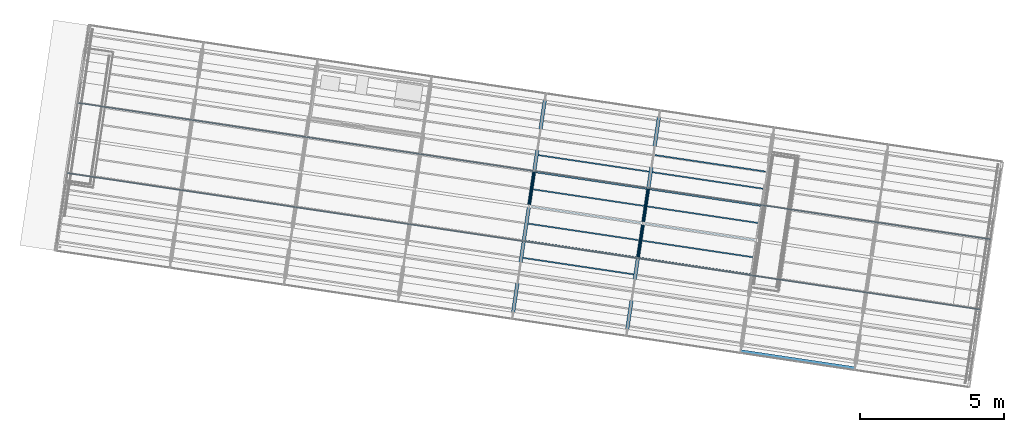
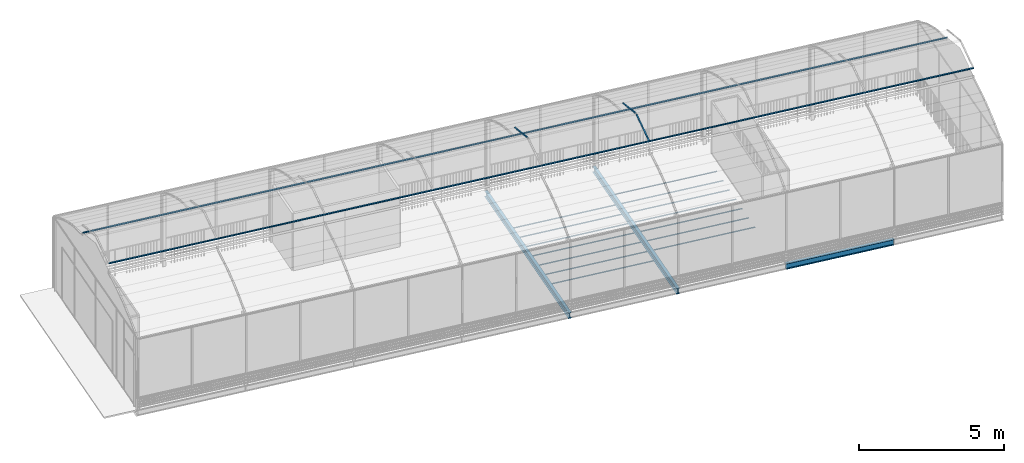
# One storey, part 11 of 34: 17 beams, 5 members, 1 element without a shape of its own.
"""IFC4 building model written with IfcOpenShell, lengths in metres."""

import ifcopenshell
import ifcopenshell.guid

model = None  # the IFC model being written
_history = None  # IfcOwnerHistory: only IFC2X3 demands one
_inside = {}  # id of a spatial element -> (the spatial element, [elements in it])
_under = {}  # id of a project, library or spatial element -> (it, [spatial elements below it])
_declared = {}  # id of a project -> (the project, [libraries it declares])
_typed = {}  # id of a type object -> (the type object, [elements of that type])
_made_of = {}  # id of a material, layer set ... -> (it, [elements and type objects made of it])


def new_model(schema):
    """Start an empty IFC model of exactly this schema.

    Asked for "IFC4X3", IfcOpenShell would pick the latest addendum, in which some entities
    have other attributes; the version numbers below select the first issue.
    IFC2X3 requires an IfcOwnerHistory on every rooted entity: one is made here for all.
    """
    global model, _history
    if schema == "IFC4X3":
        model = ifcopenshell.file(schema_version=(4, 3, 0, 0))
    else:
        model = ifcopenshell.file(schema=schema)
    _inside.clear()
    _under.clear()
    _declared.clear()
    _typed.clear()
    _made_of.clear()
    _history = None
    if model.schema == "IFC2X3":
        org = make("IfcOrganization", Name="unknown")
        user = make(
            "IfcPersonAndOrganization",
            ThePerson=make("IfcPerson", FamilyName="unknown"),
            TheOrganization=org,
        )
        app = make(
            "IfcApplication",
            ApplicationDeveloper=org,
            Version="unknown",
            ApplicationFullName="unknown",
            ApplicationIdentifier="unknown",
        )
        _history = make(
            "IfcOwnerHistory",
            OwningUser=user,
            OwningApplication=app,
            ChangeAction="ADDED",
            CreationDate=0,
        )
    return model


def make(cls, **values):
    """One entity of the class cls with the attributes given. An attribute that is None is left unset."""
    return model.create_entity(
        cls, **{name: value for name, value in values.items() if value is not None}
    )


def rooted(cls, **values):
    """An entity with a GlobalId (a new one), such as an element, a storey or a relation."""
    return make(cls, GlobalId=ifcopenshell.guid.new(), OwnerHistory=_history, **values)


def si_unit(unit_type, name, prefix=None):
    """IfcSIUnit, for example si_unit("LENGTHUNIT", "METRE", prefix="MILLI")."""
    return make("IfcSIUnit", UnitType=unit_type, Prefix=prefix, Name=name)


def assignment(units):
    """IfcUnitAssignment: the units of a project."""
    return None if units is None else make("IfcUnitAssignment", Units=units)


def point(xyz):
    """IfcCartesianPoint."""
    return None if xyz is None else make("IfcCartesianPoint", Coordinates=xyz)


def direction(xyz):
    """IfcDirection."""
    return None if xyz is None else make("IfcDirection", DirectionRatios=xyz)


def frame(location, z_axis=None, x_axis=None):
    """IfcAxis2Placement3D, a coordinate frame: its origin and axes. An axis left out is left unset."""
    return make(
        "IfcAxis2Placement3D",
        Location=point(location),
        Axis=direction(z_axis),
        RefDirection=direction(x_axis),
    )


def origin_with_axes():
    """The frame at (0, 0, 0) with the z axis (0, 0, 1) and the x axis (1, 0, 0) written out."""
    return frame((0.0, 0.0, 0.0), z_axis=(0.0, 0.0, 1.0), x_axis=(1.0, 0.0, 0.0))


def place(relative_to, where):
    """IfcLocalPlacement: puts the frame where relative to a parent placement (None: the world)."""
    return make(
        "IfcLocalPlacement", PlacementRelTo=relative_to, RelativePlacement=where
    )


def context(
    kind, dimensions, precision=None, world=None, true_north=None, identifier=None
):
    """IfcGeometricRepresentationContext, for example the 3D "Model" context."""
    return make(
        "IfcGeometricRepresentationContext",
        ContextIdentifier=identifier,
        ContextType=kind,
        CoordinateSpaceDimension=dimensions,
        Precision=precision,
        WorldCoordinateSystem=world,
        TrueNorth=true_north,
    )


def subcontext(parent, identifier, kind, view, scale=None):
    """IfcGeometricRepresentationSubContext, for example "Body" below "Model"."""
    return make(
        "IfcGeometricRepresentationSubContext",
        ContextIdentifier=identifier,
        ContextType=kind,
        ParentContext=parent,
        TargetScale=scale,
        TargetView=view,
    )


def project(units=None, contexts=None):
    """IfcProject with its units and contexts."""
    return rooted(
        "IfcProject",
        Name="project",
        RepresentationContexts=contexts,
        UnitsInContext=assignment(units),
    )


def spatial(cls, under=None, at=None, **own):
    """A site, building, storey or space (cls), placed at a placement, below another one or the project."""
    s = rooted(cls, ObjectPlacement=at, **own)
    if under is not None:
        _under.setdefault(under.id(), (under, []))[1].append(s)
    return s


def polyline(points):
    """IfcPolyline through the points."""
    return make("IfcPolyline", Points=[point(p) for p in points])


def profile(cls, at=None, kind="AREA", **sizes):
    """A parametric profile (cls). Its sizes go by their IFC names, for example OverallWidth=200.0."""
    return make(cls, ProfileType=kind, Position=at, **sizes)


def rectangle(**sizes):
    """IfcRectangleProfileDef."""
    return profile("IfcRectangleProfileDef", **sizes)


def i_section(**sizes):
    """IfcIShapeProfileDef."""
    return profile("IfcIShapeProfileDef", **sizes)


def outline(outer, holes=None, kind="AREA"):
    """IfcArbitraryClosedProfileDef: a profile drawn as a closed curve; with holes, ...WithVoids."""
    if holes is None:
        return make("IfcArbitraryClosedProfileDef", ProfileType=kind, OuterCurve=outer)
    return make(
        "IfcArbitraryProfileDefWithVoids",
        ProfileType=kind,
        OuterCurve=outer,
        InnerCurves=holes,
    )


def extrude(swept, where, along, depth):
    """IfcExtrudedAreaSolid: the profile swept, set in the frame where, extruded along a direction by depth."""
    return make(
        "IfcExtrudedAreaSolid",
        SweptArea=swept,
        Position=where,
        ExtrudedDirection=direction(along),
        Depth=depth,
    )


def shape(context_of_items, identifier, shape_type, items):
    """IfcShapeRepresentation: the items that make up one representation, for example the "Body"."""
    return make(
        "IfcShapeRepresentation",
        ContextOfItems=context_of_items,
        RepresentationIdentifier=identifier,
        RepresentationType=shape_type,
        Items=items,
    )


def material(Name=None, Category=None):
    """IfcMaterial."""
    return make("IfcMaterial", Name=Name, Category=Category)


def material_profile(
    of_material, cross_section, Name=None, Category=None, Priority=None
):
    """IfcMaterialProfile: a cross section and its material."""
    return make(
        "IfcMaterialProfile",
        Name=Name,
        Material=of_material,
        Profile=cross_section,
        Priority=Priority,
        Category=Category,
    )


def profile_set(profiles, Name=None, composite=None):
    """IfcMaterialProfileSet."""
    return make(
        "IfcMaterialProfileSet",
        Name=Name,
        MaterialProfiles=profiles,
        CompositeProfile=composite,
    )


def profile_usage(for_profile_set, cardinal=None, extent=None):
    """IfcMaterialProfileSetUsage: how a profile set lies along its element."""
    return make(
        "IfcMaterialProfileSetUsage",
        ForProfileSet=for_profile_set,
        CardinalPoint=cardinal,
        ReferenceExtent=extent,
    )


def made_of(thing, what):
    """Note that an element or type object is made of a material, layer set ...; save() writes the relation."""
    if what is not None:
        _made_of.setdefault(what.id(), (what, []))[1].append(thing)
    return thing


def type_object(cls, material=None, **own):
    """A type object (cls), such as IfcWallType, which elements share."""
    return made_of(rooted(cls, **own), material)


def element(
    cls,
    number,
    at=None,
    inside=None,
    cuts=None,
    type_object=None,
    material=None,
    context=None,
    identifier="Body",
    shape_type=None,
    held_by="IfcProductDefinitionShape",
    body=None,
    shapes=None,
    **own,
):
    """One element of the class cls, such as IfcWall. Its Tag is "e" and its number.

    at: its placement. inside: the storey or other place that contains it. cuts: it is an
    opening in that element (IfcRelVoidsElement). A single representation is given by context,
    identifier, shape_type and body (its items); several are given by shapes. held_by: the class
    of the entity that holds the representations. save() writes the other relations.
    """
    e = rooted(cls, Tag="e%d" % number, ObjectPlacement=at, **own)
    if body is not None:
        shapes = [shape(context, identifier, shape_type, body)]
    if shapes is not None:
        e.Representation = make(held_by, Representations=shapes)
    if inside is not None:
        _inside.setdefault(inside.id(), (inside, []))[1].append(e)
    if cuts is not None:
        rooted(
            "IfcRelVoidsElement", RelatingBuildingElement=cuts, RelatedOpeningElement=e
        )
    if type_object is not None:
        _typed.setdefault(type_object.id(), (type_object, []))[1].append(e)
    return made_of(e, material)


def aggregate(whole, parts):
    """IfcRelAggregates: a whole, such as a stair, and the parts it consists of."""
    return rooted("IfcRelAggregates", RelatingObject=whole, RelatedObjects=parts)


def save(model, path):
    """Write the relations noted so far, then the file.

    IfcRelAggregates (storeys below a building ...), IfcRelContainedInSpatialStructure (elements
    in a storey), IfcRelDefinesByType, IfcRelAssociatesMaterial and IfcRelDeclares: one each for
    every whole, place, type object, material and project.
    """
    for whole, parts in _under.values():
        aggregate(whole, parts)
    for where, things in _inside.values():
        rooted(
            "IfcRelContainedInSpatialStructure",
            RelatedElements=things,
            RelatingStructure=where,
        )
    for kind, things in _typed.values():
        rooted("IfcRelDefinesByType", RelatedObjects=things, RelatingType=kind)
    for what, things in _made_of.values():
        rooted("IfcRelAssociatesMaterial", RelatedObjects=things, RelatingMaterial=what)
    for by, libraries in _declared.values():
        rooted("IfcRelDeclares", RelatingContext=by, RelatedDefinitions=libraries)
    model.write(path)


model = new_model("IFC4")

# Units and contexts
model_context = context("Model", 3, precision=1e-05, world=origin_with_axes(), true_north=direction((0.0, 1.0)))
body_context = subcontext(model_context, "Body", "Model", "MODEL_VIEW")
ifc_project = project(units=[si_unit("LENGTHUNIT", "METRE"), si_unit("AREAUNIT", "SQUARE_METRE"), si_unit("VOLUMEUNIT", "CUBIC_METRE")], contexts=[model_context])

# Site, building, storey
site_placement = place(None, origin_with_axes())
site = spatial("IfcSite", under=ifc_project, at=site_placement, Name="Lares · Rua das Mercês · artigo 4771")
building_placement = place(site_placement, frame((15.0, 9.7, 14.65), z_axis=(0.0, 0.0, 1.0), x_axis=(0.989015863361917, -0.147809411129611, 0.0)))
building = spatial("IfcBuilding", under=site, at=building_placement, Name="Casa Sobreposta")
storey_placement = place(building_placement, frame((0.0, 0.0, 3.24), z_axis=(0.0, 0.0, 1.0), x_axis=(1.0, 0.0, 0.0)))
storey = spatial("IfcBuildingStorey", under=building, at=storey_placement, Name="01 · Jardim de inverno", Elevation=17.89)

# Beams
ifc_material_1 = material(Name="Aço pintado / Stahl lackiert", Category="steel")
ifc_material_profile_1 = material_profile(ifc_material_1, i_section(OverallWidth=0.12, OverallDepth=0.24, WebThickness=0.0062, FlangeThickness=0.0098))
ifc_profile_set_1 = profile_set([ifc_material_profile_1], Name="IPE240")
ifc_profile_usage_1 = profile_usage(ifc_profile_set_1)
beam_type = type_object("IfcBeamType", Name="IPE240 / steel", PredefinedType="NOTDEFINED", material=ifc_profile_set_1)
beam_1_placement = place(storey_placement, frame((24.0, -1.44, -0.152), z_axis=(1.0, 0.0, 0.0), x_axis=(0.0, -1.0, 0.0)))
element("IfcBeam", 1, at=beam_1_placement, inside=storey, type_object=beam_type, material=ifc_profile_usage_1, Name="Viga longitudinal 24 / -1.44", context=body_context, shape_type="SweptSolid", body=[
    extrude(i_section(OverallWidth=0.12, OverallDepth=0.24, WebThickness=0.0062, FlangeThickness=0.0098), origin_with_axes(), (0.0, 0.0, 1.0), 4.0),
])
ifc_profile_usage_2 = profile_usage(ifc_profile_set_1)
beam_2_placement = place(storey_placement, frame((16.0, -1.5, -0.152), z_axis=(0.0, 1.0, 0.0), x_axis=(1.0, 0.0, 0.0)))
element("IfcBeam", 2, at=beam_2_placement, inside=storey, type_object=beam_type, material=ifc_profile_usage_2, Name="Viga transversal eixo 16", context=body_context, shape_type="SweptSolid", body=[
    extrude(i_section(OverallWidth=0.12, OverallDepth=0.24, WebThickness=0.0062, FlangeThickness=0.0098), origin_with_axes(), (0.0, 0.0, 1.0), 7.9),
])
ifc_profile_usage_3 = profile_usage(ifc_profile_set_1)
beam_3_placement = place(storey_placement, frame((20.0, -1.5, -0.152), z_axis=(0.0, 1.0, 0.0), x_axis=(1.0, 0.0, 0.0)))
element("IfcBeam", 3, at=beam_3_placement, inside=storey, type_object=beam_type, material=ifc_profile_usage_3, Name="Viga transversal eixo 20", context=body_context, shape_type="SweptSolid", body=[
    extrude(i_section(OverallWidth=0.12, OverallDepth=0.24, WebThickness=0.0062, FlangeThickness=0.0098), origin_with_axes(), (0.0, 0.0, 1.0), 7.9),
])

# Roof, members
ifc_material_2 = material(Name="Vidro / Normalglas", Category="glass")
roof_placement = place(storey_placement, frame((0.0, 0.0, -3.24), z_axis=(0.0, 0.0, 1.0), x_axis=(1.0, 0.0, 0.0)))
roof = element("IfcRoof", 4, at=roof_placement, inside=storey, material=ifc_material_2, Name="Cobertura translúcida da estufa", PredefinedType="BARREL_ROOF")
ifc_material_profile_2 = material_profile(ifc_material_1, rectangle(XDim=0.035, YDim=0.035))
ifc_profile_set_2 = profile_set([ifc_material_profile_2], Name="R0.035")
ifc_profile_usage_4 = profile_usage(ifc_profile_set_2)
member_type = type_object("IfcMemberType", Name="R0.035 / steel", PredefinedType="NOTDEFINED", material=ifc_profile_set_2)
member_1_placement = place(roof_placement, frame((20.0, 1.22042020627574, 7.62067689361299), z_axis=(0.0, 0.960073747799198, 0.279747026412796), x_axis=(1.0, 0.0, 0.0)))
member_1 = element("IfcMember", 5, at=member_1_placement, type_object=member_type, material=ifc_profile_usage_4, Name="Arco estufa 20/7", context=body_context, shape_type="SweptSolid", body=[
    extrude(rectangle(XDim=0.035, YDim=0.035), origin_with_axes(), (0.0, 0.0, 1.0), 1.23148937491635),
])
ifc_profile_usage_5 = profile_usage(ifc_profile_set_2)
member_2_placement = place(roof_placement, frame((16.0, 2.49770027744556, 7.96518238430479), z_axis=(0.0, 0.96007374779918, -0.279747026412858), x_axis=(1.0, 0.0, 0.0)))
member_2 = element("IfcMember", 6, at=member_2_placement, type_object=member_type, material=ifc_profile_usage_5, Name="Arco estufa 16/9", context=body_context, shape_type="SweptSolid", body=[
    extrude(rectangle(XDim=0.035, YDim=0.035), origin_with_axes(), (0.0, 0.0, 1.0), 1.23148937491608),
])
ifc_profile_usage_6 = profile_usage(ifc_profile_set_2)
member_3_placement = place(roof_placement, frame((20.0, 2.49770027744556, 7.96518238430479), z_axis=(0.0, 0.96007374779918, -0.279747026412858), x_axis=(1.0, 0.0, 0.0)))
member_3 = element("IfcMember", 7, at=member_3_placement, type_object=member_type, material=ifc_profile_usage_6, Name="Arco estufa 20/9", context=body_context, shape_type="SweptSolid", body=[
    extrude(rectangle(XDim=0.035, YDim=0.035), origin_with_axes(), (0.0, 0.0, 1.0), 1.23148937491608),
])
ifc_profile_usage_7 = profile_usage(ifc_profile_set_2)
member_4_placement = place(roof_placement, frame((0.0, 1.22042020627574, 7.62067689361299), z_axis=(1.0, 0.0, 0.0), x_axis=(0.0, -1.0, 0.0)))
member_4 = element("IfcMember", 8, at=member_4_placement, type_object=member_type, material=ifc_profile_usage_7, Name="Terça da estufa", context=body_context, shape_type="SweptSolid", body=[
    extrude(rectangle(XDim=0.035, YDim=0.035), origin_with_axes(), (0.0, 0.0, 1.0), 32.0),
])
ifc_profile_usage_8 = profile_usage(ifc_profile_set_2)
member_5_placement = place(roof_placement, frame((0.0, 3.68002089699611, 7.30067689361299), z_axis=(1.0, 0.0, 0.0), x_axis=(0.0, -1.0, 0.0)))
member_5 = element("IfcMember", 9, at=member_5_placement, type_object=member_type, material=ifc_profile_usage_8, Name="Terça da estufa", context=body_context, shape_type="SweptSolid", body=[
    extrude(rectangle(XDim=0.035, YDim=0.035), origin_with_axes(), (0.0, 0.0, 1.0), 32.0),
])
aggregate(roof, [member_1, member_2, member_3, member_4, member_5])

# Beams
ifc_material_3 = material(Name="Madeira / Bauholz", Category="wood")
ifc_material_profile_3 = material_profile(ifc_material_3, outline(polyline([(0.022225, -0.12), (0.022225, -0.092), (-0.022225, -0.092), (-0.022225, -0.12), (0.022225, -0.12)])))
ifc_material_4 = material(Name="OSB", Category="wood")
ifc_material_profile_4 = material_profile(ifc_material_4, outline(polyline([(0.0047625, -0.092), (0.0047625, 0.092), (-0.0047625, 0.092), (-0.0047625, -0.092), (0.0047625, -0.092)])))
ifc_material_profile_5 = material_profile(ifc_material_3, outline(polyline([(0.022225, 0.092), (0.022225, 0.12), (-0.022225, 0.12), (-0.022225, 0.092), (0.022225, 0.092)])))
ifc_profile_set_3 = profile_set([ifc_material_profile_3, ifc_material_profile_4, ifc_material_profile_5], Name="TJI240 · madeira / OSB")
ifc_profile_usage_9 = profile_usage(ifc_profile_set_3)
beam_4_placement = place(storey_placement, frame((16.065, 0.65, -0.152), z_axis=(1.0, 0.0, 0.0), x_axis=(0.0, 1.0, 0.0)))
element("IfcBeam", 10, at=beam_4_placement, inside=storey, material=ifc_profile_usage_9, Name="TJI240 · 16.065 / 0.65", context=body_context, shape_type="SweptSolid", body=[
    extrude(outline(polyline([(0.022225, -0.12), (0.022225, -0.092), (-0.022225, -0.092), (-0.022225, -0.12), (0.022225, -0.12)])), origin_with_axes(), (0.0, 0.0, 1.0), 3.87),
    extrude(outline(polyline([(0.022225, -0.12), (0.022225, -0.092), (-0.022225, -0.092), (-0.022225, -0.12), (0.022225, -0.12)])), origin_with_axes(), (0.0, 0.0, 1.0), 3.87),
    extrude(outline(polyline([(0.022225, -0.12), (0.022225, -0.092), (-0.022225, -0.092), (-0.022225, -0.12), (0.022225, -0.12)])), origin_with_axes(), (0.0, 0.0, 1.0), 3.87),
])
ifc_material_profile_6 = material_profile(ifc_material_3, outline(polyline([(0.022225, -0.12), (0.022225, -0.092), (-0.022225, -0.092), (-0.022225, -0.12), (0.022225, -0.12)])))
ifc_material_profile_7 = material_profile(ifc_material_4, outline(polyline([(0.0047625, -0.092), (0.0047625, 0.092), (-0.0047625, 0.092), (-0.0047625, -0.092), (0.0047625, -0.092)])))
ifc_material_profile_8 = material_profile(ifc_material_3, outline(polyline([(0.022225, 0.092), (0.022225, 0.12), (-0.022225, 0.12), (-0.022225, 0.092), (0.022225, 0.092)])))
ifc_profile_set_4 = profile_set([ifc_material_profile_6, ifc_material_profile_7, ifc_material_profile_8], Name="TJI240 · madeira / OSB")
ifc_profile_usage_10 = profile_usage(ifc_profile_set_4)
beam_5_placement = place(storey_placement, frame((16.065, 1.25, -0.152), z_axis=(1.0, 0.0, 0.0), x_axis=(0.0, 1.0, 0.0)))
element("IfcBeam", 11, at=beam_5_placement, inside=storey, material=ifc_profile_usage_10, Name="TJI240 · 16.065 / 1.25", context=body_context, shape_type="SweptSolid", body=[
    extrude(outline(polyline([(0.022225, -0.12), (0.022225, -0.092), (-0.022225, -0.092), (-0.022225, -0.12), (0.022225, -0.12)])), origin_with_axes(), (0.0, 0.0, 1.0), 3.87),
    extrude(outline(polyline([(0.022225, -0.12), (0.022225, -0.092), (-0.022225, -0.092), (-0.022225, -0.12), (0.022225, -0.12)])), origin_with_axes(), (0.0, 0.0, 1.0), 3.87),
    extrude(outline(polyline([(0.022225, -0.12), (0.022225, -0.092), (-0.022225, -0.092), (-0.022225, -0.12), (0.022225, -0.12)])), origin_with_axes(), (0.0, 0.0, 1.0), 3.87),
])
ifc_material_profile_9 = material_profile(ifc_material_3, outline(polyline([(0.022225, -0.12), (0.022225, -0.092), (-0.022225, -0.092), (-0.022225, -0.12), (0.022225, -0.12)])))
ifc_material_profile_10 = material_profile(ifc_material_4, outline(polyline([(0.0047625, -0.092), (0.0047625, 0.092), (-0.0047625, 0.092), (-0.0047625, -0.092), (0.0047625, -0.092)])))
ifc_material_profile_11 = material_profile(ifc_material_3, outline(polyline([(0.022225, 0.092), (0.022225, 0.12), (-0.022225, 0.12), (-0.022225, 0.092), (0.022225, 0.092)])))
ifc_profile_set_5 = profile_set([ifc_material_profile_9, ifc_material_profile_10, ifc_material_profile_11], Name="TJI240 · madeira / OSB")
ifc_profile_usage_11 = profile_usage(ifc_profile_set_5)
beam_6_placement = place(storey_placement, frame((20.065, 1.25, -0.152), z_axis=(1.0, 0.0, 0.0), x_axis=(0.0, 1.0, 0.0)))
element("IfcBeam", 12, at=beam_6_placement, inside=storey, material=ifc_profile_usage_11, Name="TJI240 · 20.065 / 1.25", context=body_context, shape_type="SweptSolid", body=[
    extrude(outline(polyline([(0.022225, -0.12), (0.022225, -0.092), (-0.022225, -0.092), (-0.022225, -0.12), (0.022225, -0.12)])), origin_with_axes(), (0.0, 0.0, 1.0), 3.87),
    extrude(outline(polyline([(0.022225, -0.12), (0.022225, -0.092), (-0.022225, -0.092), (-0.022225, -0.12), (0.022225, -0.12)])), origin_with_axes(), (0.0, 0.0, 1.0), 3.87),
    extrude(outline(polyline([(0.022225, -0.12), (0.022225, -0.092), (-0.022225, -0.092), (-0.022225, -0.12), (0.022225, -0.12)])), origin_with_axes(), (0.0, 0.0, 1.0), 3.87),
])
ifc_material_profile_12 = material_profile(ifc_material_3, outline(polyline([(0.022225, -0.12), (0.022225, -0.092), (-0.022225, -0.092), (-0.022225, -0.12), (0.022225, -0.12)])))
ifc_material_profile_13 = material_profile(ifc_material_4, outline(polyline([(0.0047625, -0.092), (0.0047625, 0.092), (-0.0047625, 0.092), (-0.0047625, -0.092), (0.0047625, -0.092)])))
ifc_material_profile_14 = material_profile(ifc_material_3, outline(polyline([(0.022225, 0.092), (0.022225, 0.12), (-0.022225, 0.12), (-0.022225, 0.092), (0.022225, 0.092)])))
ifc_profile_set_6 = profile_set([ifc_material_profile_12, ifc_material_profile_13, ifc_material_profile_14], Name="TJI240 · madeira / OSB")
ifc_profile_usage_12 = profile_usage(ifc_profile_set_6)
beam_7_placement = place(storey_placement, frame((16.065, 1.85, -0.152), z_axis=(1.0, 0.0, 0.0), x_axis=(0.0, 1.0, 0.0)))
element("IfcBeam", 13, at=beam_7_placement, inside=storey, material=ifc_profile_usage_12, Name="TJI240 · 16.065 / 1.85", context=body_context, shape_type="SweptSolid", body=[
    extrude(outline(polyline([(0.022225, -0.12), (0.022225, -0.092), (-0.022225, -0.092), (-0.022225, -0.12), (0.022225, -0.12)])), origin_with_axes(), (0.0, 0.0, 1.0), 3.87),
    extrude(outline(polyline([(0.022225, -0.12), (0.022225, -0.092), (-0.022225, -0.092), (-0.022225, -0.12), (0.022225, -0.12)])), origin_with_axes(), (0.0, 0.0, 1.0), 3.87),
    extrude(outline(polyline([(0.022225, -0.12), (0.022225, -0.092), (-0.022225, -0.092), (-0.022225, -0.12), (0.022225, -0.12)])), origin_with_axes(), (0.0, 0.0, 1.0), 3.87),
])
ifc_material_profile_15 = material_profile(ifc_material_3, outline(polyline([(0.022225, -0.12), (0.022225, -0.092), (-0.022225, -0.092), (-0.022225, -0.12), (0.022225, -0.12)])))
ifc_material_profile_16 = material_profile(ifc_material_4, outline(polyline([(0.0047625, -0.092), (0.0047625, 0.092), (-0.0047625, 0.092), (-0.0047625, -0.092), (0.0047625, -0.092)])))
ifc_material_profile_17 = material_profile(ifc_material_3, outline(polyline([(0.022225, 0.092), (0.022225, 0.12), (-0.022225, 0.12), (-0.022225, 0.092), (0.022225, 0.092)])))
ifc_profile_set_7 = profile_set([ifc_material_profile_15, ifc_material_profile_16, ifc_material_profile_17], Name="TJI240 · madeira / OSB")
ifc_profile_usage_13 = profile_usage(ifc_profile_set_7)
beam_8_placement = place(storey_placement, frame((20.065, 1.85, -0.152), z_axis=(1.0, 0.0, 0.0), x_axis=(0.0, 1.0, 0.0)))
element("IfcBeam", 14, at=beam_8_placement, inside=storey, material=ifc_profile_usage_13, Name="TJI240 · 20.065 / 1.85", context=body_context, shape_type="SweptSolid", body=[
    extrude(outline(polyline([(0.022225, -0.12), (0.022225, -0.092), (-0.022225, -0.092), (-0.022225, -0.12), (0.022225, -0.12)])), origin_with_axes(), (0.0, 0.0, 1.0), 3.87),
    extrude(outline(polyline([(0.022225, -0.12), (0.022225, -0.092), (-0.022225, -0.092), (-0.022225, -0.12), (0.022225, -0.12)])), origin_with_axes(), (0.0, 0.0, 1.0), 3.87),
    extrude(outline(polyline([(0.022225, -0.12), (0.022225, -0.092), (-0.022225, -0.092), (-0.022225, -0.12), (0.022225, -0.12)])), origin_with_axes(), (0.0, 0.0, 1.0), 3.87),
])
ifc_material_profile_18 = material_profile(ifc_material_3, outline(polyline([(0.022225, -0.12), (0.022225, -0.092), (-0.022225, -0.092), (-0.022225, -0.12), (0.022225, -0.12)])))
ifc_material_profile_19 = material_profile(ifc_material_4, outline(polyline([(0.0047625, -0.092), (0.0047625, 0.092), (-0.0047625, 0.092), (-0.0047625, -0.092), (0.0047625, -0.092)])))
ifc_material_profile_20 = material_profile(ifc_material_3, outline(polyline([(0.022225, 0.092), (0.022225, 0.12), (-0.022225, 0.12), (-0.022225, 0.092), (0.022225, 0.092)])))
ifc_profile_set_8 = profile_set([ifc_material_profile_18, ifc_material_profile_19, ifc_material_profile_20], Name="TJI240 · madeira / OSB")
ifc_profile_usage_14 = profile_usage(ifc_profile_set_8)
beam_9_placement = place(storey_placement, frame((16.065, 2.45, -0.152), z_axis=(1.0, 0.0, 0.0), x_axis=(0.0, 1.0, 0.0)))
element("IfcBeam", 15, at=beam_9_placement, inside=storey, material=ifc_profile_usage_14, Name="TJI240 · 16.065 / 2.45", context=body_context, shape_type="SweptSolid", body=[
    extrude(outline(polyline([(0.022225, -0.12), (0.022225, -0.092), (-0.022225, -0.092), (-0.022225, -0.12), (0.022225, -0.12)])), origin_with_axes(), (0.0, 0.0, 1.0), 3.87),
    extrude(outline(polyline([(0.022225, -0.12), (0.022225, -0.092), (-0.022225, -0.092), (-0.022225, -0.12), (0.022225, -0.12)])), origin_with_axes(), (0.0, 0.0, 1.0), 3.87),
    extrude(outline(polyline([(0.022225, -0.12), (0.022225, -0.092), (-0.022225, -0.092), (-0.022225, -0.12), (0.022225, -0.12)])), origin_with_axes(), (0.0, 0.0, 1.0), 3.87),
])
ifc_material_profile_21 = material_profile(ifc_material_3, outline(polyline([(0.022225, -0.12), (0.022225, -0.092), (-0.022225, -0.092), (-0.022225, -0.12), (0.022225, -0.12)])))
ifc_material_profile_22 = material_profile(ifc_material_4, outline(polyline([(0.0047625, -0.092), (0.0047625, 0.092), (-0.0047625, 0.092), (-0.0047625, -0.092), (0.0047625, -0.092)])))
ifc_material_profile_23 = material_profile(ifc_material_3, outline(polyline([(0.022225, 0.092), (0.022225, 0.12), (-0.022225, 0.12), (-0.022225, 0.092), (0.022225, 0.092)])))
ifc_profile_set_9 = profile_set([ifc_material_profile_21, ifc_material_profile_22, ifc_material_profile_23], Name="TJI240 · madeira / OSB")
ifc_profile_usage_15 = profile_usage(ifc_profile_set_9)
beam_10_placement = place(storey_placement, frame((20.065, 2.45, -0.152), z_axis=(1.0, 0.0, 0.0), x_axis=(0.0, 1.0, 0.0)))
element("IfcBeam", 16, at=beam_10_placement, inside=storey, material=ifc_profile_usage_15, Name="TJI240 · 20.065 / 2.45", context=body_context, shape_type="SweptSolid", body=[
    extrude(outline(polyline([(0.022225, -0.12), (0.022225, -0.092), (-0.022225, -0.092), (-0.022225, -0.12), (0.022225, -0.12)])), origin_with_axes(), (0.0, 0.0, 1.0), 3.87),
    extrude(outline(polyline([(0.022225, -0.12), (0.022225, -0.092), (-0.022225, -0.092), (-0.022225, -0.12), (0.022225, -0.12)])), origin_with_axes(), (0.0, 0.0, 1.0), 3.87),
    extrude(outline(polyline([(0.022225, -0.12), (0.022225, -0.092), (-0.022225, -0.092), (-0.022225, -0.12), (0.022225, -0.12)])), origin_with_axes(), (0.0, 0.0, 1.0), 3.87),
])
ifc_material_profile_24 = material_profile(ifc_material_3, outline(polyline([(0.022225, -0.12), (0.022225, -0.092), (-0.022225, -0.092), (-0.022225, -0.12), (0.022225, -0.12)])))
ifc_material_profile_25 = material_profile(ifc_material_4, outline(polyline([(0.0047625, -0.092), (0.0047625, 0.092), (-0.0047625, 0.092), (-0.0047625, -0.092), (0.0047625, -0.092)])))
ifc_material_profile_26 = material_profile(ifc_material_3, outline(polyline([(0.022225, 0.092), (0.022225, 0.12), (-0.022225, 0.12), (-0.022225, 0.092), (0.022225, 0.092)])))
ifc_profile_set_10 = profile_set([ifc_material_profile_24, ifc_material_profile_25, ifc_material_profile_26], Name="TJI240 · madeira / OSB")
ifc_profile_usage_16 = profile_usage(ifc_profile_set_10)
beam_11_placement = place(storey_placement, frame((16.065, 3.05, -0.152), z_axis=(1.0, 0.0, 0.0), x_axis=(0.0, 1.0, 0.0)))
element("IfcBeam", 17, at=beam_11_placement, inside=storey, material=ifc_profile_usage_16, Name="TJI240 · 16.065 / 3.05", context=body_context, shape_type="SweptSolid", body=[
    extrude(outline(polyline([(0.022225, -0.12), (0.022225, -0.092), (-0.022225, -0.092), (-0.022225, -0.12), (0.022225, -0.12)])), origin_with_axes(), (0.0, 0.0, 1.0), 3.87),
    extrude(outline(polyline([(0.022225, -0.12), (0.022225, -0.092), (-0.022225, -0.092), (-0.022225, -0.12), (0.022225, -0.12)])), origin_with_axes(), (0.0, 0.0, 1.0), 3.87),
    extrude(outline(polyline([(0.022225, -0.12), (0.022225, -0.092), (-0.022225, -0.092), (-0.022225, -0.12), (0.022225, -0.12)])), origin_with_axes(), (0.0, 0.0, 1.0), 3.87),
])
ifc_material_profile_27 = material_profile(ifc_material_3, outline(polyline([(0.022225, -0.12), (0.022225, -0.092), (-0.022225, -0.092), (-0.022225, -0.12), (0.022225, -0.12)])))
ifc_material_profile_28 = material_profile(ifc_material_4, outline(polyline([(0.0047625, -0.092), (0.0047625, 0.092), (-0.0047625, 0.092), (-0.0047625, -0.092), (0.0047625, -0.092)])))
ifc_material_profile_29 = material_profile(ifc_material_3, outline(polyline([(0.022225, 0.092), (0.022225, 0.12), (-0.022225, 0.12), (-0.022225, 0.092), (0.022225, 0.092)])))
ifc_profile_set_11 = profile_set([ifc_material_profile_27, ifc_material_profile_28, ifc_material_profile_29], Name="TJI240 · madeira / OSB")
ifc_profile_usage_17 = profile_usage(ifc_profile_set_11)
beam_12_placement = place(storey_placement, frame((20.065, 3.05, -0.152), z_axis=(1.0, 0.0, 0.0), x_axis=(0.0, 1.0, 0.0)))
element("IfcBeam", 18, at=beam_12_placement, inside=storey, material=ifc_profile_usage_17, Name="TJI240 · 20.065 / 3.05", context=body_context, shape_type="SweptSolid", body=[
    extrude(outline(polyline([(0.022225, -0.12), (0.022225, -0.092), (-0.022225, -0.092), (-0.022225, -0.12), (0.022225, -0.12)])), origin_with_axes(), (0.0, 0.0, 1.0), 3.87),
    extrude(outline(polyline([(0.022225, -0.12), (0.022225, -0.092), (-0.022225, -0.092), (-0.022225, -0.12), (0.022225, -0.12)])), origin_with_axes(), (0.0, 0.0, 1.0), 3.87),
    extrude(outline(polyline([(0.022225, -0.12), (0.022225, -0.092), (-0.022225, -0.092), (-0.022225, -0.12), (0.022225, -0.12)])), origin_with_axes(), (0.0, 0.0, 1.0), 3.87),
])
ifc_material_profile_30 = material_profile(ifc_material_3, outline(polyline([(0.022225, -0.12), (0.022225, -0.092), (-0.022225, -0.092), (-0.022225, -0.12), (0.022225, -0.12)])))
ifc_material_profile_31 = material_profile(ifc_material_4, outline(polyline([(0.0047625, -0.092), (0.0047625, 0.092), (-0.0047625, 0.092), (-0.0047625, -0.092), (0.0047625, -0.092)])))
ifc_material_profile_32 = material_profile(ifc_material_3, outline(polyline([(0.022225, 0.092), (0.022225, 0.12), (-0.022225, 0.12), (-0.022225, 0.092), (0.022225, 0.092)])))
ifc_profile_set_12 = profile_set([ifc_material_profile_30, ifc_material_profile_31, ifc_material_profile_32], Name="TJI240 · madeira / OSB")
ifc_profile_usage_18 = profile_usage(ifc_profile_set_12)
beam_13_placement = place(storey_placement, frame((16.065, 3.65, -0.152), z_axis=(1.0, 0.0, 0.0), x_axis=(0.0, 1.0, 0.0)))
element("IfcBeam", 19, at=beam_13_placement, inside=storey, material=ifc_profile_usage_18, Name="TJI240 · 16.065 / 3.65", context=body_context, shape_type="SweptSolid", body=[
    extrude(outline(polyline([(0.022225, -0.12), (0.022225, -0.092), (-0.022225, -0.092), (-0.022225, -0.12), (0.022225, -0.12)])), origin_with_axes(), (0.0, 0.0, 1.0), 3.87),
    extrude(outline(polyline([(0.022225, -0.12), (0.022225, -0.092), (-0.022225, -0.092), (-0.022225, -0.12), (0.022225, -0.12)])), origin_with_axes(), (0.0, 0.0, 1.0), 3.87),
    extrude(outline(polyline([(0.022225, -0.12), (0.022225, -0.092), (-0.022225, -0.092), (-0.022225, -0.12), (0.022225, -0.12)])), origin_with_axes(), (0.0, 0.0, 1.0), 3.87),
])
ifc_material_profile_33 = material_profile(ifc_material_3, outline(polyline([(0.022225, -0.12), (0.022225, -0.092), (-0.022225, -0.092), (-0.022225, -0.12), (0.022225, -0.12)])))
ifc_material_profile_34 = material_profile(ifc_material_4, outline(polyline([(0.0047625, -0.092), (0.0047625, 0.092), (-0.0047625, 0.092), (-0.0047625, -0.092), (0.0047625, -0.092)])))
ifc_material_profile_35 = material_profile(ifc_material_3, outline(polyline([(0.022225, 0.092), (0.022225, 0.12), (-0.022225, 0.12), (-0.022225, 0.092), (0.022225, 0.092)])))
ifc_profile_set_13 = profile_set([ifc_material_profile_33, ifc_material_profile_34, ifc_material_profile_35], Name="TJI240 · madeira / OSB")
ifc_profile_usage_19 = profile_usage(ifc_profile_set_13)
beam_14_placement = place(storey_placement, frame((20.065, 3.65, -0.152), z_axis=(1.0, 0.0, 0.0), x_axis=(0.0, 1.0, 0.0)))
element("IfcBeam", 20, at=beam_14_placement, inside=storey, material=ifc_profile_usage_19, Name="TJI240 · 20.065 / 3.65", context=body_context, shape_type="SweptSolid", body=[
    extrude(outline(polyline([(0.022225, -0.12), (0.022225, -0.092), (-0.022225, -0.092), (-0.022225, -0.12), (0.022225, -0.12)])), origin_with_axes(), (0.0, 0.0, 1.0), 3.87),
    extrude(outline(polyline([(0.022225, -0.12), (0.022225, -0.092), (-0.022225, -0.092), (-0.022225, -0.12), (0.022225, -0.12)])), origin_with_axes(), (0.0, 0.0, 1.0), 3.87),
    extrude(outline(polyline([(0.022225, -0.12), (0.022225, -0.092), (-0.022225, -0.092), (-0.022225, -0.12), (0.022225, -0.12)])), origin_with_axes(), (0.0, 0.0, 1.0), 3.87),
])
ifc_material_profile_36 = material_profile(ifc_material_3, outline(polyline([(0.022225, -0.12), (0.022225, -0.092), (-0.022225, -0.092), (-0.022225, -0.12), (0.022225, -0.12)])))
ifc_material_profile_37 = material_profile(ifc_material_4, outline(polyline([(0.0047625, -0.092), (0.0047625, 0.092), (-0.0047625, 0.092), (-0.0047625, -0.092), (0.0047625, -0.092)])))
ifc_material_profile_38 = material_profile(ifc_material_3, outline(polyline([(0.022225, 0.092), (0.022225, 0.12), (-0.022225, 0.12), (-0.022225, 0.092), (0.022225, 0.092)])))
ifc_profile_set_14 = profile_set([ifc_material_profile_36, ifc_material_profile_37, ifc_material_profile_38], Name="TJI240 · madeira / OSB")
ifc_profile_usage_20 = profile_usage(ifc_profile_set_14)
beam_15_placement = place(storey_placement, frame((16.065, 4.25, -0.152), z_axis=(1.0, 0.0, 0.0), x_axis=(0.0, 1.0, 0.0)))
element("IfcBeam", 21, at=beam_15_placement, inside=storey, material=ifc_profile_usage_20, Name="TJI240 · 16.065 / 4.25", context=body_context, shape_type="SweptSolid", body=[
    extrude(outline(polyline([(0.022225, -0.12), (0.022225, -0.092), (-0.022225, -0.092), (-0.022225, -0.12), (0.022225, -0.12)])), origin_with_axes(), (0.0, 0.0, 1.0), 3.87),
    extrude(outline(polyline([(0.022225, -0.12), (0.022225, -0.092), (-0.022225, -0.092), (-0.022225, -0.12), (0.022225, -0.12)])), origin_with_axes(), (0.0, 0.0, 1.0), 3.87),
    extrude(outline(polyline([(0.022225, -0.12), (0.022225, -0.092), (-0.022225, -0.092), (-0.022225, -0.12), (0.022225, -0.12)])), origin_with_axes(), (0.0, 0.0, 1.0), 3.87),
])
ifc_material_profile_39 = material_profile(ifc_material_3, outline(polyline([(0.022225, -0.12), (0.022225, -0.092), (-0.022225, -0.092), (-0.022225, -0.12), (0.022225, -0.12)])))
ifc_material_profile_40 = material_profile(ifc_material_4, outline(polyline([(0.0047625, -0.092), (0.0047625, 0.092), (-0.0047625, 0.092), (-0.0047625, -0.092), (0.0047625, -0.092)])))
ifc_material_profile_41 = material_profile(ifc_material_3, outline(polyline([(0.022225, 0.092), (0.022225, 0.12), (-0.022225, 0.12), (-0.022225, 0.092), (0.022225, 0.092)])))
ifc_profile_set_15 = profile_set([ifc_material_profile_39, ifc_material_profile_40, ifc_material_profile_41], Name="TJI240 · madeira / OSB")
ifc_profile_usage_21 = profile_usage(ifc_profile_set_15)
beam_16_placement = place(storey_placement, frame((20.065, 4.25, -0.152), z_axis=(1.0, 0.0, 0.0), x_axis=(0.0, 1.0, 0.0)))
element("IfcBeam", 22, at=beam_16_placement, inside=storey, material=ifc_profile_usage_21, Name="TJI240 · 20.065 / 4.25", context=body_context, shape_type="SweptSolid", body=[
    extrude(outline(polyline([(0.022225, -0.12), (0.022225, -0.092), (-0.022225, -0.092), (-0.022225, -0.12), (0.022225, -0.12)])), origin_with_axes(), (0.0, 0.0, 1.0), 3.87),
    extrude(outline(polyline([(0.022225, -0.12), (0.022225, -0.092), (-0.022225, -0.092), (-0.022225, -0.12), (0.022225, -0.12)])), origin_with_axes(), (0.0, 0.0, 1.0), 3.87),
    extrude(outline(polyline([(0.022225, -0.12), (0.022225, -0.092), (-0.022225, -0.092), (-0.022225, -0.12), (0.022225, -0.12)])), origin_with_axes(), (0.0, 0.0, 1.0), 3.87),
])
ifc_material_profile_42 = material_profile(ifc_material_3, outline(polyline([(0.022225, -0.12), (0.022225, -0.092), (-0.022225, -0.092), (-0.022225, -0.12), (0.022225, -0.12)])))
ifc_material_profile_43 = material_profile(ifc_material_4, outline(polyline([(0.0047625, -0.092), (0.0047625, 0.092), (-0.0047625, 0.092), (-0.0047625, -0.092), (0.0047625, -0.092)])))
ifc_material_profile_44 = material_profile(ifc_material_3, outline(polyline([(0.022225, 0.092), (0.022225, 0.12), (-0.022225, 0.12), (-0.022225, 0.092), (0.022225, 0.092)])))
ifc_profile_set_16 = profile_set([ifc_material_profile_42, ifc_material_profile_43, ifc_material_profile_44], Name="TJI240 · madeira / OSB")
ifc_profile_usage_22 = profile_usage(ifc_profile_set_16)
beam_17_placement = place(storey_placement, frame((20.065, 4.85, -0.152), z_axis=(1.0, 0.0, 0.0), x_axis=(0.0, 1.0, 0.0)))
element("IfcBeam", 23, at=beam_17_placement, inside=storey, material=ifc_profile_usage_22, Name="TJI240 · 20.065 / 4.85", context=body_context, shape_type="SweptSolid", body=[
    extrude(outline(polyline([(0.022225, -0.12), (0.022225, -0.092), (-0.022225, -0.092), (-0.022225, -0.12), (0.022225, -0.12)])), origin_with_axes(), (0.0, 0.0, 1.0), 3.87),
    extrude(outline(polyline([(0.022225, -0.12), (0.022225, -0.092), (-0.022225, -0.092), (-0.022225, -0.12), (0.022225, -0.12)])), origin_with_axes(), (0.0, 0.0, 1.0), 3.87),
    extrude(outline(polyline([(0.022225, -0.12), (0.022225, -0.092), (-0.022225, -0.092), (-0.022225, -0.12), (0.022225, -0.12)])), origin_with_axes(), (0.0, 0.0, 1.0), 3.87),
])

save(model, "model.ifc")
